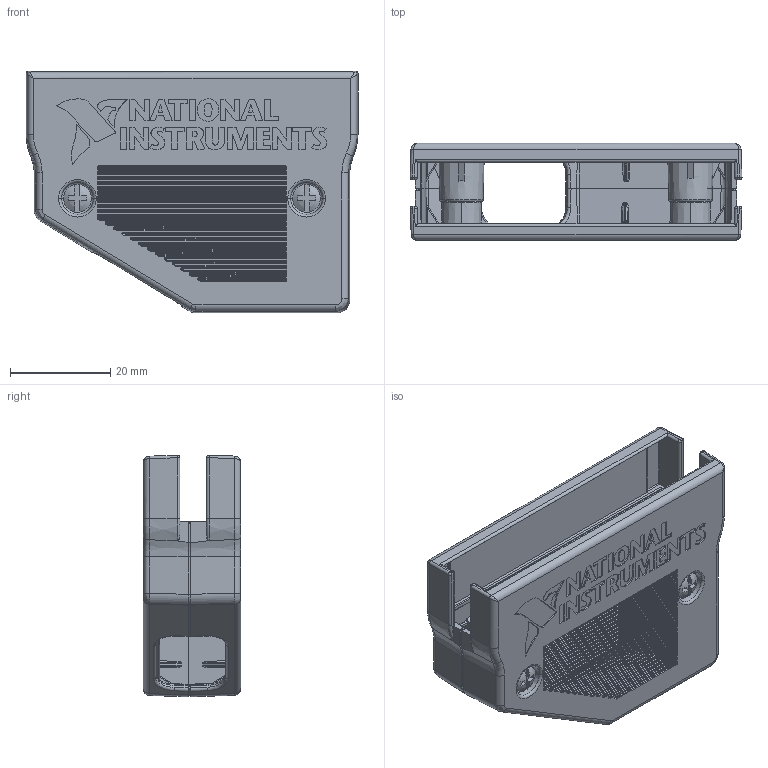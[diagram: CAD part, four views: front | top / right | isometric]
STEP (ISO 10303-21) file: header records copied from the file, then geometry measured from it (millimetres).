
FILE_DESCRIPTION((''),'2;1');
FILE_NAME('CU_NI-9940_BS_ONLY','2016-03-11T',('dkendric'),(''),'PRO/ENGINEER BY PARAMETRIC TECHNOLOGY CORPORATION, 2015280','PRO/ENGINEER BY PARAMETRIC TECHNOLOGY CORPORATION, 2015280','');
FILE_SCHEMA(('CONFIG_CONTROL_DESIGN'));
Products named in the file (1): CU_NI-9940_BS_ONLY
Bounding box: 66.27 x 19.41 x 48.24 mm (x, y, z)
Volume: 13190.8 mm3; surface area: 18096.2 mm2
Topology: 1 solids, 1 shells, 2276 faces, 5176 edges, 2964 vertices
Faces by surface type: cylinder 900, plane 630, torus 245, sphere 241, bspline 155, extrusion 71, cone 34
Entity records: 74102 total; most frequent: CARTESIAN_POINT 23990, DIRECTION 10600, ORIENTED_EDGE 10350, EDGE_CURVE 5175, AXIS2_PLACEMENT_3D 3983, VERTEX_POINT 2964, VECTOR 2634, LINE 2563
